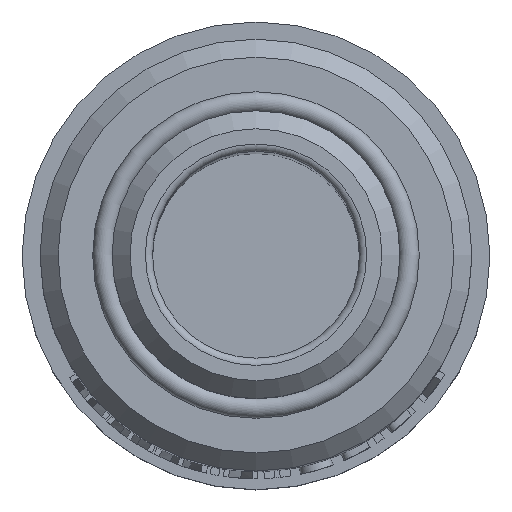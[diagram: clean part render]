
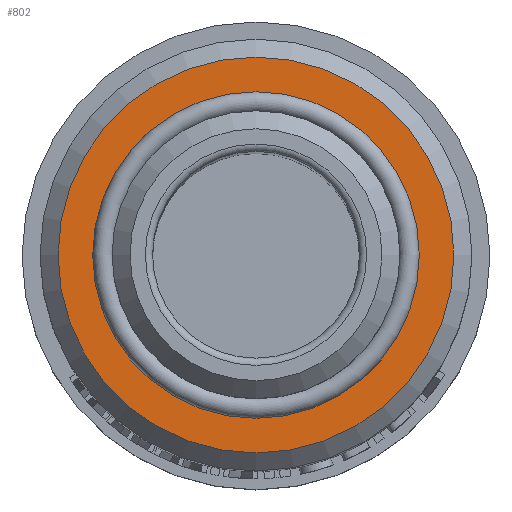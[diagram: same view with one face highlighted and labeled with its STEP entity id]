
A CAD part, top view. The second image highlights one B-rep face of the part: STEP entity #802.
In plain terms, the highlighted planar face has unit normal (0, 0, 1).
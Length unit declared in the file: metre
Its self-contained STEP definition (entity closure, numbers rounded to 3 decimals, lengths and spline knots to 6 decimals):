
#802 = ADVANCED_FACE( '', ( #1729, #1730 ), #1731, .T. );
#1729 = FACE_BOUND( '', #6796, .T. );
#1730 = FACE_OUTER_BOUND( '', #6797, .T. );
#1731 = PLANE( '', #6798 );
#6796 = EDGE_LOOP( '', ( #9784 ) );
#6797 = EDGE_LOOP( '', ( #9785 ) );
#6798 = AXIS2_PLACEMENT_3D( '', #9786, #9787, #9788 );
#9784 = ORIENTED_EDGE( '', *, *, #10596, .F. );
#9785 = ORIENTED_EDGE( '', *, *, #11285, .T. );
#9786 = CARTESIAN_POINT( '', ( 0.008, 0., 0.02875 ) );
#9787 = DIRECTION( '', ( 0., 0., 1. ) );
#9788 = DIRECTION( '', ( 1., 0., 0. ) );
#10596 = EDGE_CURVE( '', #11858, #11858, #11859, .T. );
#11285 = EDGE_CURVE( '', #12872, #12872, #12873, .T. );
#11858 = VERTEX_POINT( '', #14086 );
#11859 = CIRCLE( '', #14087, 0.008787 );
#12872 = VERTEX_POINT( '', #16496 );
#12873 = CIRCLE( '', #16497, 0.011 );
#14086 = CARTESIAN_POINT( '', ( 0.008787, 0., 0.02875 ) );
#14087 = AXIS2_PLACEMENT_3D( '', #17059, #17060, #17061 );
#16496 = CARTESIAN_POINT( '', ( 0.011, 0., 0.02875 ) );
#16497 = AXIS2_PLACEMENT_3D( '', #17733, #17734, #17735 );
#17059 = CARTESIAN_POINT( '', ( 0., 0., 0.02875 ) );
#17060 = DIRECTION( '', ( 0., 0., 1. ) );
#17061 = DIRECTION( '', ( 1., 0., 0. ) );
#17733 = CARTESIAN_POINT( '', ( 0., 0., 0.02875 ) );
#17734 = DIRECTION( '', ( 0., 0., 1. ) );
#17735 = DIRECTION( '', ( 1., 0., 0. ) );
